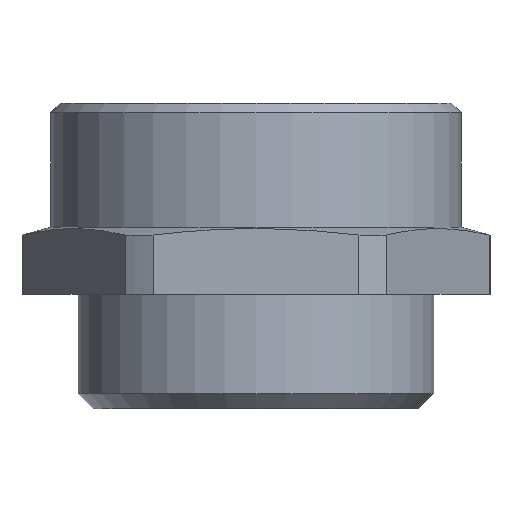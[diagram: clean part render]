
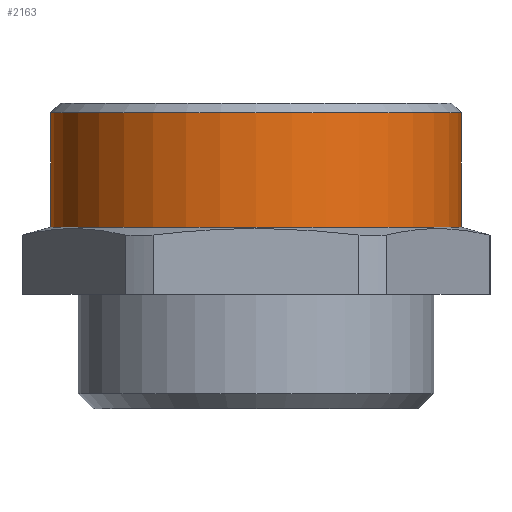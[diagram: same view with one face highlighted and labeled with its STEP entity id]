
A CAD part, left-side view. The second image highlights one B-rep face of the part: STEP entity #2163.
In plain terms, the highlighted cylindrical face has radius 10.75 mm (diameter 21.5 mm), a partial arc.
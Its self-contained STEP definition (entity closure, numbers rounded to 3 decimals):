
#8 = VERTEX_POINT ( 'NONE', #463 ) ;
#25 = VERTEX_POINT ( 'NONE', #496 ) ;
#90 = EDGE_CURVE ( 'NONE', #97, #8, #587, .T. ) ;
#94 = VERTEX_POINT ( 'NONE', #583 ) ;
#95 = EDGE_CURVE ( 'NONE', #94, #25, #958, .T. ) ;
#97 = VERTEX_POINT ( 'NONE', #954 ) ;
#463 = CARTESIAN_POINT ( 'NONE',  ( 0., -10.75, -0.5 ) ) ;
#496 = CARTESIAN_POINT ( 'NONE',  ( 0., 10.75, -0.5 ) ) ;
#583 = CARTESIAN_POINT ( 'NONE',  ( 0., 10.75, -6.5 ) ) ;
#584 = DIRECTION ( 'NONE',  ( 0., 0., 1. ) ) ;
#585 = VECTOR ( 'NONE', #584, 1000. ) ;
#586 = CARTESIAN_POINT ( 'NONE',  ( 0., -10.75, 0. ) ) ;
#587 = LINE ( 'NONE', #586, #585 ) ;
#954 = CARTESIAN_POINT ( 'NONE',  ( 0., -10.75, -6.5 ) ) ;
#955 = DIRECTION ( 'NONE',  ( 0., 0., 1. ) ) ;
#956 = VECTOR ( 'NONE', #955, 1000. ) ;
#957 = CARTESIAN_POINT ( 'NONE',  ( 0., 10.75, 0. ) ) ;
#958 = LINE ( 'NONE', #957, #956 ) ;
#1491 = DIRECTION ( 'NONE',  ( 0., -1., 0. ) ) ;
#1492 = DIRECTION ( 'NONE',  ( 0., 0., 1. ) ) ;
#1493 = CARTESIAN_POINT ( 'NONE',  ( 0., 0., 0. ) ) ;
#1494 = AXIS2_PLACEMENT_3D ( 'NONE', #1493, #1492, #1491 ) ;
#1495 = CYLINDRICAL_SURFACE ( 'NONE', #1494, 10.75 ) ;
#1497 = FACE_OUTER_BOUND ( 'NONE', #2220, .T. ) ;
#1793 = DIRECTION ( 'NONE',  ( 0., -1., 0. ) ) ;
#1794 = DIRECTION ( 'NONE',  ( 0., 0., 1. ) ) ;
#1795 = CARTESIAN_POINT ( 'NONE',  ( 0., 0., -6.5 ) ) ;
#1796 = AXIS2_PLACEMENT_3D ( 'NONE', #1795, #1794, #1793 ) ;
#1797 = CIRCLE ( 'NONE', #1796, 10.75 ) ;
#1879 = DIRECTION ( 'NONE',  ( 0., 1., 0. ) ) ;
#1880 = DIRECTION ( 'NONE',  ( 0., 0., -1. ) ) ;
#1881 = AXIS2_PLACEMENT_3D ( 'NONE', #1888, #1880, #1879 ) ;
#1882 = CIRCLE ( 'NONE', #1881, 10.75 ) ;
#1888 = CARTESIAN_POINT ( 'NONE',  ( 0., 0., -0.5 ) ) ;
#2163 = ADVANCED_FACE ( 'NONE', ( #1497 ), #1495, .T. ) ;
#2220 = EDGE_LOOP ( 'NONE', ( #2221, #2222, #2223, #2224 ) ) ;
#2221 = ORIENTED_EDGE ( 'NONE', *, *, #95, .F. ) ;
#2222 = ORIENTED_EDGE ( 'NONE', *, *, #2245, .T. ) ;
#2223 = ORIENTED_EDGE ( 'NONE', *, *, #90, .T. ) ;
#2224 = ORIENTED_EDGE ( 'NONE', *, *, #2225, .T. ) ;
#2225 = EDGE_CURVE ( 'NONE', #8, #25, #1882, .T. ) ;
#2245 = EDGE_CURVE ( 'NONE', #94, #97, #1797, .T. ) ;
